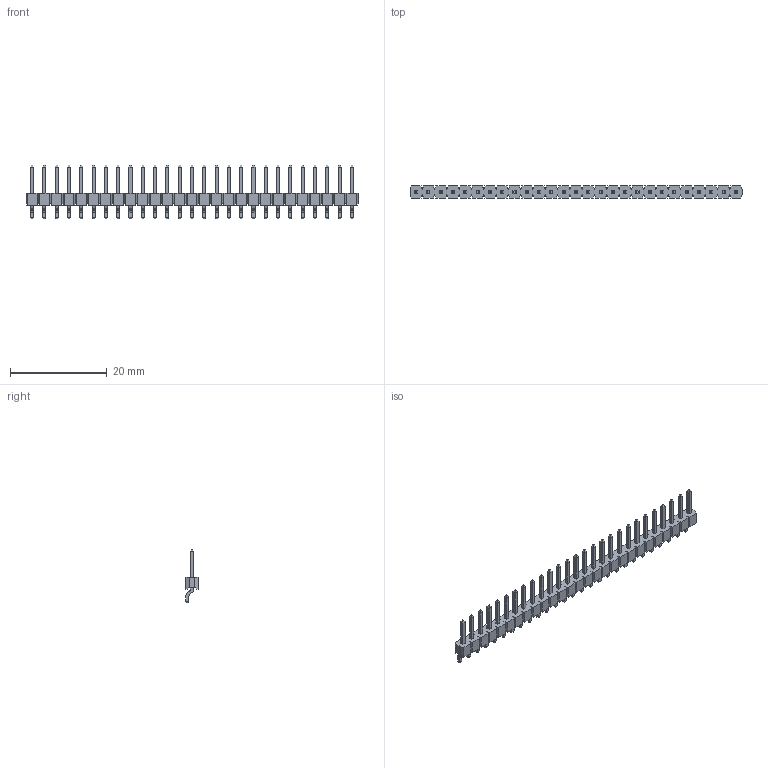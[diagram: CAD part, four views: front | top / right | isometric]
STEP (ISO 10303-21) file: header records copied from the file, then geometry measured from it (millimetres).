
FILE_DESCRIPTION(/* description */ (''),/* implementation_level */ '2;1');
FILE_NAME(/* name */ '961127-5500-XX-XX.stp',/* time_stamp */ '2008-06-11T13:26:48+02:00',/* author */ (''),/* organization */ (''),/* preprocessor_version */ 'ST-DEVELOPER v11',/* originating_system */ 'UGS - NX 5.0',/* authorisation */ '');
FILE_SCHEMA (('AUTOMOTIVE_DESIGN { 1 0 10303 214 1 1 1 1 }'));
Length unit declared in the file: millimetre
Products named in the file (1): 961127-5500-XX-XX
Bounding box: 68.58 x 2.5 x 11.1 mm (x, y, z)
Volume: 457.8 mm3; surface area: 1433.4 mm2
Topology: 1 solids, 1 shells, 976 faces, 2544 edges, 1624 vertices
Faces by surface type: plane 868, cylinder 108
Entity records: 29220 total; most frequent: CARTESIAN_POINT 5145, ORIENTED_EDGE 5088, DIRECTION 4714, EDGE_CURVE 2544, LINE 2328, VECTOR 2328, VERTEX_POINT 1624, AXIS2_PLACEMENT_3D 1193
